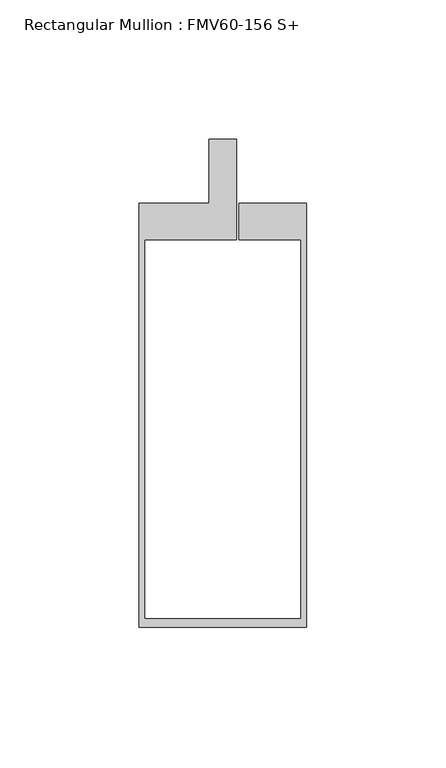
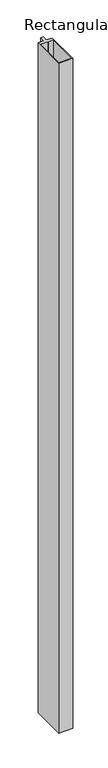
"""IFC4 building model written with IfcOpenShell, lengths in millimetres: member geometry, Rectangular Mullion : FMV60-156 S+."""

from ifc_helpers import new_model, si_unit, frame, origin, place, context, project, spatial, polyline, outline, extrude, source, transform, mapped, element, save


def rectangular_mullion_fmv60_156_s_41606e2c(model_context):
    return source(origin(), model_context, "Body", "SweptSolid", [
        extrude(outline(polyline([(-5.0, 0.2), (-5.0, 23.1768801), (5.0, 23.1768801), (5.0, -12.8034168), (-28.0157965, -12.8034168), (-28.0157965, -148.8078946), (27.9840779, -148.8078946), (27.9840779, -12.8034168), (5.8, -12.8034168), (5.8, 0.2), (29.9842035, 0.2), (29.9842035, -151.8078946), (-30.0157965, -151.8078946), (-30.0157965, 0.2), (-5.0, 0.2)])), frame((0.0, 0.0, -3020.0), z_axis=(0.0, 0.0, 1.0), x_axis=(1.0, 0.0, 0.0)), (0.0, 0.0, 1.0), 3020.0),
    ])


if __name__ == "__main__":
    model = new_model("IFC4")
    model_context = context("Model", 3, world=origin())
    ifc_project = project(units=[si_unit("LENGTHUNIT", "METRE", prefix="MILLI")], contexts=[model_context])
    site = spatial("IfcSite", under=ifc_project)
    building = spatial("IfcBuilding", under=site)
    placement = place(None, origin())
    rectangular_mullion_fmv60_156_s_shape = rectangular_mullion_fmv60_156_s_41606e2c(model_context)
    element("IfcMember", 1, ObjectType="Rectangular Mullion : FMV60-156 S+", at=placement, inside=building, context=model_context, shape_type="MappedRepresentation", body=[
        mapped(rectangular_mullion_fmv60_156_s_shape, transform((0.0, 0.0, 0.0), x_axis=(1.0, 0.0, 0.0), y_axis=(0.0, 1.0, 0.0), z_axis=(0.0, 0.0, 1.0))),
    ])
    save(model, "model.ifc")
